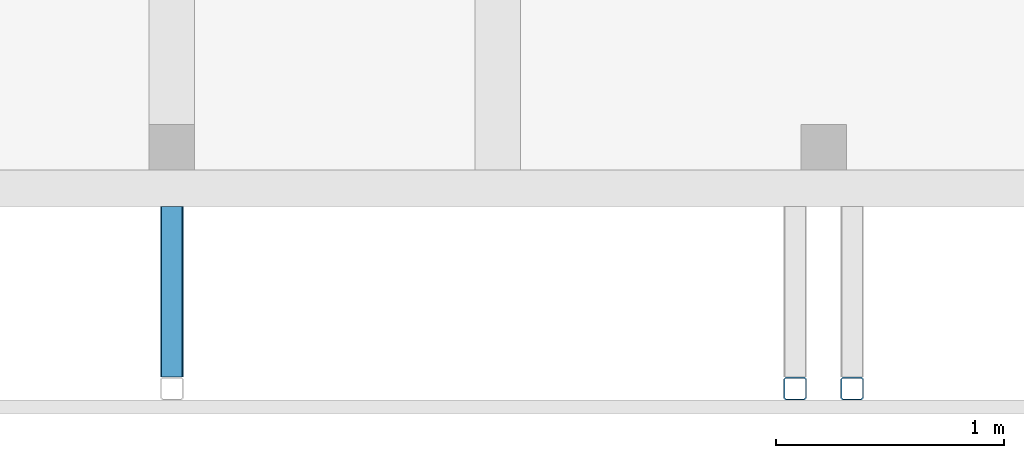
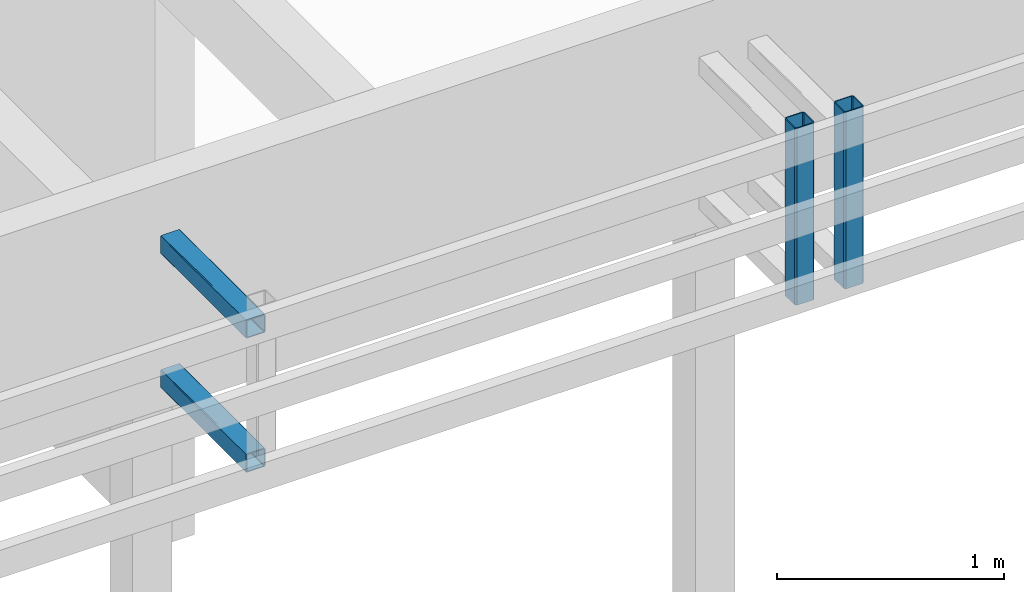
# One storey, part 26 of 44: 4 members.
"""IFC4 building model written with IfcOpenShell, lengths in metres."""

from ifc_helpers import new_model, entity, si_unit, converted_unit, derived_unit, frame, origin, place, context, subcontext, project, spatial, faceted_brep, material, element, save


model = new_model("IFC4")

# Units and contexts
model_context = context("Model", 3, precision=1e-05, world=origin())
plan_context = context("Plan", 2, precision=1e-05, world=origin())
body_context = subcontext(model_context, "Body", "Model", "MODEL_VIEW")
ifc_project = project(units=[si_unit("LENGTHUNIT", "METRE"), si_unit("AREAUNIT", "SQUARE_METRE"), si_unit("VOLUMEUNIT", "CUBIC_METRE"), si_unit("MASSUNIT", "GRAM", prefix="KILO"), converted_unit("PLANEANGLEUNIT", "DEGREE", entity("IfcPlaneAngleMeasure", 0.0174532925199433), si_unit("PLANEANGLEUNIT", "RADIAN"), dimensions=[0, 0, 0, 0, 0, 0, 0]), derived_unit("THERMALTRANSMITTANCEUNIT", [(si_unit("POWERUNIT", "WATT"), 1), (si_unit("THERMODYNAMICTEMPERATUREUNIT", "KELVIN"), -1), (si_unit("LENGTHUNIT", "METRE"), -2)]), derived_unit("VOLUMETRICFLOWRATEUNIT", [(si_unit("LENGTHUNIT", "METRE"), 3), (converted_unit("TIMEUNIT", "hour", entity("IfcTimeMeasure", 3600.0), si_unit("TIMEUNIT", "SECOND"), dimensions=[0, 0, 1, 0, 0, 0, 0]), -1), (si_unit("LENGTHUNIT", "METRE"), -1)])], contexts=[model_context, plan_context])

# Site, building, storey
site_placement = place(None, origin())
site = spatial("IfcSite", under=ifc_project, at=site_placement, Name="Site", CompositionType="ELEMENT")
building_placement = place(site_placement, origin())
building = spatial("IfcBuilding", under=site, at=building_placement, Name="Admin", CompositionType="ELEMENT")
storey_placement = place(building_placement, frame((0.0, 0.0, 3.25)))
storey = spatial("IfcBuildingStorey", under=building, at=storey_placement, Name="01-Etage1", CompositionType="ELEMENT", Elevation=3.25)

# Members
ifc_material_1 = material(Name="S235")
member_1_placement = place(storey_placement, frame((52.3748010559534, 11.0194493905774, 2.82)))
element("IfcMember", 1, at=member_1_placement, inside=storey, material=ifc_material_1, Name="Bandeau R+1", context=body_context, shape_type="Brep", body=[
    faceted_brep([(0.01, 0.095, 0.0), (0.01, 0.095, 0.95), (0.09, 0.095, 0.95), (0.09, 0.095, 0.0), (0.005, 0.09, 0.0), (0.005, 0.09, 0.95), (0.005, 0.01, 0.0), (0.005, 0.01, 0.95), (0.01, 0.005, 0.0), (0.01, 0.005, 0.95), (0.09, 0.005, 0.0), (0.09, 0.005, 0.95), (0.095, 0.01, 0.0), (0.095, 0.01, 0.95), (0.095, 0.09, 0.0), (0.095, 0.09, 0.95), (0.1, 0.0925, 0.0), (0.1, 0.0925, 0.95), (0.0925, 0.1, 0.95), (0.0925, 0.1, 0.0), (0.1, 0.0075, 0.0), (0.1, 0.0075, 0.95), (0.0925, 0.0, 0.0), (0.0925, 0.0, 0.95), (0.0075, 0.0, 0.0), (0.0075, 0.0, 0.95), (0.0, 0.0075, 0.0), (0.0, 0.0075, 0.95), (0.0, 0.0925, 0.0), (0.0, 0.0925, 0.95), (0.0075, 0.1, 0.0), (0.0075, 0.1, 0.95)], [[[0, 1, 2, 3]], [[4, 5, 1, 0]], [[6, 7, 5, 4]], [[8, 9, 7, 6]], [[10, 11, 9, 8]], [[12, 13, 11, 10]], [[14, 15, 13, 12]], [[3, 2, 15, 14]], [[16, 17, 18, 19]], [[20, 21, 17, 16]], [[22, 23, 21, 20]], [[24, 25, 23, 22]], [[26, 27, 25, 24]], [[28, 29, 27, 26]], [[30, 31, 29, 28]], [[19, 18, 31, 30]], [[18, 17, 21, 23, 25, 27, 29, 31], [2, 1, 5, 7, 9, 11, 13, 15]], [[19, 30, 28, 26, 24, 22, 20, 16], [3, 14, 12, 10, 8, 6, 4, 0]]], orient=[[False], [False], [False], [False], [False], [False], [False], [False], [False], [False], [False], [False], [False], [False], [False], [False], [False, False], [False, False]]),
])
ifc_material_2 = material(Name="S235")
member_2_placement = place(storey_placement, frame((52.6248010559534, 11.0194493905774, 2.82)))
element("IfcMember", 2, at=member_2_placement, inside=storey, material=ifc_material_2, Name="Bandeau R+1", context=body_context, shape_type="Brep", body=[
    faceted_brep([(0.01, 0.095, 0.0), (0.01, 0.095, 0.95), (0.09, 0.095, 0.95), (0.09, 0.095, 0.0), (0.005, 0.09, 0.0), (0.005, 0.09, 0.95), (0.005, 0.01, 0.0), (0.005, 0.01, 0.95), (0.01, 0.005, 0.0), (0.01, 0.005, 0.95), (0.09, 0.005, 0.0), (0.09, 0.005, 0.95), (0.095, 0.01, 0.0), (0.095, 0.01, 0.95), (0.095, 0.09, 0.0), (0.095, 0.09, 0.95), (0.1, 0.0925, 0.0), (0.1, 0.0925, 0.95), (0.0925, 0.1, 0.95), (0.0925, 0.1, 0.0), (0.1, 0.0075, 0.0), (0.1, 0.0075, 0.95), (0.0925, 0.0, 0.0), (0.0925, 0.0, 0.95), (0.0075, 0.0, 0.0), (0.0075, 0.0, 0.95), (0.0, 0.0075, 0.0), (0.0, 0.0075, 0.95), (0.0, 0.0925, 0.0), (0.0, 0.0925, 0.95), (0.0075, 0.1, 0.0), (0.0075, 0.1, 0.95)], [[[0, 1, 2, 3]], [[4, 5, 1, 0]], [[6, 7, 5, 4]], [[8, 9, 7, 6]], [[10, 11, 9, 8]], [[12, 13, 11, 10]], [[14, 15, 13, 12]], [[3, 2, 15, 14]], [[16, 17, 18, 19]], [[20, 21, 17, 16]], [[22, 23, 21, 20]], [[24, 25, 23, 22]], [[26, 27, 25, 24]], [[28, 29, 27, 26]], [[30, 31, 29, 28]], [[19, 18, 31, 30]], [[18, 17, 21, 23, 25, 27, 29, 31], [2, 1, 5, 7, 9, 11, 13, 15]], [[19, 30, 28, 26, 24, 22, 20, 16], [3, 14, 12, 10, 8, 6, 4, 0]]], orient=[[False], [False], [False], [False], [False], [False], [False], [False], [False], [False], [False], [False], [False], [False], [False], [False], [False, False], [False, False]]),
])
ifc_material_3 = material(Name="S235")
member_3_placement = place(storey_placement, frame((49.6398010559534, 11.1194493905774, 3.54)))
element("IfcMember", 3, at=member_3_placement, inside=storey, material=ifc_material_3, Name="Bandeau R+1", context=body_context, shape_type="Brep", body=[
    faceted_brep([(0.095, 0.0, 0.09), (0.095, 0.0, 0.01), (0.0950000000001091, 0.749999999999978, 0.01), (0.0950000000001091, 0.749999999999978, 0.09), (0.0949240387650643, 0.0, 0.0908682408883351), (0.0949240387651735, 0.749999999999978, 0.0908682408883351), (0.0946984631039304, 0.0, 0.0917101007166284), (0.0946984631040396, 0.749999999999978, 0.0917101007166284), (0.0943301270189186, 0.0, 0.0925), (0.0943301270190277, 0.749999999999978, 0.0925), (0.093830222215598, 0.0, 0.0932139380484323), (0.0938302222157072, 0.749999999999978, 0.0932139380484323), (0.0932139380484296, 1.81898940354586e-15, 0.0938302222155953), (0.0932139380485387, 0.74999999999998, 0.0938302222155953), (0.0925, 1.81898940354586e-15, 0.0943301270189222), (0.0925000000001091, 0.74999999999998, 0.0943301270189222), (0.0917101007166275, 1.81898940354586e-15, 0.0946984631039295), (0.0917101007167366, 0.74999999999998, 0.0946984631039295), (0.0908682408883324, 1.81898940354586e-15, 0.0949240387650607), (0.0908682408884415, 0.74999999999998, 0.0949240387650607), (0.09, 1.81898940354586e-15, 0.095), (0.0900000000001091, 0.74999999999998, 0.095), (0.01, 1.2732925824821e-14, 0.095), (0.0100000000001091, 0.749999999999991, 0.095), (0.00913175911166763, 1.2732925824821e-14, 0.0949240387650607), (0.00913175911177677, 0.749999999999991, 0.0949240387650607), (0.00828989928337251, 1.2732925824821e-14, 0.0946984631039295), (0.00828989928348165, 0.749999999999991, 0.0946984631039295), (0.0075, 1.2732925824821e-14, 0.0943301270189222), (0.00750000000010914, 0.749999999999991, 0.0943301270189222), (0.00678606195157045, 1.2732925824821e-14, 0.0938302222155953), (0.00678606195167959, 0.749999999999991, 0.0938302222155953), (0.00616977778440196, 1.45519152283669e-14, 0.0932139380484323), (0.0061697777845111, 0.749999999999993, 0.0932139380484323), (0.00566987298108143, 1.45519152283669e-14, 0.0925), (0.00566987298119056, 0.749999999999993, 0.0925), (0.00530153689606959, 1.45519152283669e-14, 0.0917101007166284), (0.00530153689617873, 0.749999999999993, 0.0917101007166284), (0.00507596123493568, 1.45519152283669e-14, 0.0908682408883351), (0.00507596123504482, 0.749999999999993, 0.0908682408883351), (0.005, 1.45519152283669e-14, 0.09), (0.00500000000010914, 0.749999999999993, 0.09), (0.005, 1.45519152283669e-14, 0.01), (0.00500000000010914, 0.749999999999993, 0.01), (0.00507596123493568, 1.45519152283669e-14, 0.00913175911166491), (0.00507596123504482, 0.749999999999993, 0.00913175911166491), (0.00530153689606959, 1.45519152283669e-14, 0.0082898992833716), (0.00530153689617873, 0.749999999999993, 0.0082898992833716), (0.00566987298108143, 1.45519152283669e-14, 0.0075), (0.00566987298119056, 0.749999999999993, 0.0075), (0.00616977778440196, 1.45519152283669e-14, 0.00678606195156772), (0.0061697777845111, 0.749999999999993, 0.00678606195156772), (0.00678606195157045, 1.2732925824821e-14, 0.00616977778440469), (0.00678606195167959, 0.749999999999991, 0.00616977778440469), (0.0075, 1.2732925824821e-14, 0.00566987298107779), (0.00750000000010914, 0.749999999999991, 0.00566987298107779), (0.00828989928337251, 1.2732925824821e-14, 0.0053015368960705), (0.00828989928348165, 0.749999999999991, 0.0053015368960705), (0.00913175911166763, 1.2732925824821e-14, 0.00507596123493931), (0.00913175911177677, 0.749999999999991, 0.00507596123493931), (0.01, 1.2732925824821e-14, 0.005), (0.0100000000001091, 0.749999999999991, 0.005), (0.09, 1.81898940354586e-15, 0.005), (0.0900000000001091, 0.74999999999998, 0.005), (0.0908682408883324, 1.81898940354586e-15, 0.00507596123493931), (0.0908682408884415, 0.74999999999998, 0.00507596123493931), (0.0917101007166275, 1.81898940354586e-15, 0.0053015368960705), (0.0917101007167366, 0.74999999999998, 0.0053015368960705), (0.0925, 1.81898940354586e-15, 0.00566987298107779), (0.0925000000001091, 0.74999999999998, 0.00566987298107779), (0.0932139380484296, 1.81898940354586e-15, 0.00616977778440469), (0.0932139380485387, 0.74999999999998, 0.00616977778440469), (0.093830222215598, 0.0, 0.00678606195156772), (0.0938302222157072, 0.749999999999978, 0.00678606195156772), (0.0943301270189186, 0.0, 0.0075), (0.0943301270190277, 0.749999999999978, 0.0075), (0.0946984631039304, 0.0, 0.0082898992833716), (0.0946984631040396, 0.749999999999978, 0.0082898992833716), (0.0949240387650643, 0.0, 0.00913175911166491), (0.0949240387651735, 0.749999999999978, 0.00913175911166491), (0.0075, 1.2732925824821e-14, 0.1), (0.00619763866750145, 1.45519152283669e-14, 0.0998860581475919), (0.00619763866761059, 0.749999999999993, 0.0998860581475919), (0.00750000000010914, 0.749999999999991, 0.1), (0.0925, 1.81898940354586e-15, 0.1), (0.0925000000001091, 0.74999999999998, 0.1), (0.0938023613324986, 0.0, 0.0998860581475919), (0.0938023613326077, 0.749999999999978, 0.0998860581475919), (0.0950651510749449, 0.0, 0.0995476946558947), (0.095065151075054, 0.749999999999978, 0.0995476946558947), (0.09625, 0.0, 0.0989951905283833), (0.0962500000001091, 0.749999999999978, 0.0989951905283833), (0.0973209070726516, 0.0, 0.0982453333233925), (0.0973209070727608, 0.749999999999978, 0.0982453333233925), (0.0982453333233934, 0.0, 0.0973209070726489), (0.0982453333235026, 0.749999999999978, 0.0973209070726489), (0.0989951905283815, 0.0, 0.09625), (0.0989951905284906, 0.749999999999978, 0.09625), (0.099547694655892, 0.0, 0.0950651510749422), (0.0995476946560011, 0.749999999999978, 0.0950651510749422), (0.0998860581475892, 0.0, 0.0938023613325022), (0.0998860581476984, 0.749999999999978, 0.0938023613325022), (0.1, 0.0, 0.0925), (0.100000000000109, 0.749999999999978, 0.0925), (0.0998860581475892, 0.0, 0.00619763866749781), (0.1, 0.0, 0.0075), (0.100000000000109, 0.749999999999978, 0.0075), (0.0998860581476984, 0.749999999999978, 0.00619763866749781), (0.099547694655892, 0.0, 0.00493484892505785), (0.0995476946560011, 0.749999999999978, 0.00493484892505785), (0.0989951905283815, 0.0, 0.00375), (0.0989951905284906, 0.749999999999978, 0.00375), (0.0982453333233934, 0.0, 0.00267909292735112), (0.0982453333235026, 0.749999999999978, 0.00267909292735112), (0.0973209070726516, 0.0, 0.00175466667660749), (0.0973209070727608, 0.749999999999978, 0.00175466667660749), (0.09625, 0.0, 0.00100480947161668), (0.0962500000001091, 0.749999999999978, 0.00100480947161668), (0.0950651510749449, 0.0, 0.000452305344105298), (0.095065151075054, 0.749999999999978, 0.000452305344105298), (0.0938023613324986, 0.0, 0.000113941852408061), (0.0938023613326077, 0.749999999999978, 0.000113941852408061), (0.0925, 1.81898940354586e-15, 0.0), (0.0925000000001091, 0.74999999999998, 0.0), (0.0075, 1.2732925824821e-14, 0.0), (0.00750000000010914, 0.749999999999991, 0.0), (0.00619763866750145, 1.45519152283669e-14, 0.000113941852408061), (0.00619763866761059, 0.749999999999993, 0.000113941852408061), (0.00493484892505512, 1.45519152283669e-14, 0.000452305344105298), (0.00493484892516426, 0.749999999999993, 0.000452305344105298), (0.00375, 1.45519152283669e-14, 0.00100480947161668), (0.00375000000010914, 0.749999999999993, 0.00100480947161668), (0.00267909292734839, 1.45519152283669e-14, 0.00175466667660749), (0.00267909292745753, 0.749999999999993, 0.00175466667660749), (0.00175466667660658, 1.45519152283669e-14, 0.00267909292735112), (0.00175466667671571, 0.749999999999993, 0.00267909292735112), (0.0010048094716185, 1.45519152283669e-14, 0.00375), (0.00100480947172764, 0.749999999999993, 0.00375), (0.000452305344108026, 1.45519152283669e-14, 0.00493484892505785), (0.000452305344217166, 0.749999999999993, 0.00493484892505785), (0.00011394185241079, 1.45519152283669e-14, 0.00619763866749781), (0.000113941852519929, 0.749999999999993, 0.00619763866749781), (0.0, 0.0, 0.0075), (1.09139364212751e-13, 0.749999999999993, 0.0075), (0.00011394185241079, 1.45519152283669e-14, 0.0938023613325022), (0.0, -1.81898940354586e-15, 0.0925), (1.09139364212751e-13, 0.749999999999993, 0.0925), (0.000113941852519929, 0.749999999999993, 0.0938023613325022), (0.000452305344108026, 1.45519152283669e-14, 0.0950651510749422), (0.000452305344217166, 0.749999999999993, 0.0950651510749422), (0.0010048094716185, 1.45519152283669e-14, 0.09625), (0.00100480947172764, 0.749999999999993, 0.09625), (0.00175466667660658, 1.45519152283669e-14, 0.0973209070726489), (0.00175466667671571, 0.749999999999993, 0.0973209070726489), (0.00267909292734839, 1.45519152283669e-14, 0.0982453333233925), (0.00267909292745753, 0.749999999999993, 0.0982453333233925), (0.00375, 1.45519152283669e-14, 0.0989951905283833), (0.00375000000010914, 0.749999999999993, 0.0989951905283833), (0.00493484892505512, 1.45519152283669e-14, 0.0995476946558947), (0.00493484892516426, 0.749999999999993, 0.0995476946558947)], [[[0, 1, 2, 3]], [[4, 0, 3, 5]], [[6, 4, 5, 7]], [[8, 6, 7, 9]], [[10, 8, 9, 11]], [[12, 10, 11, 13]], [[14, 12, 13, 15]], [[16, 14, 15, 17]], [[18, 16, 17, 19]], [[20, 18, 19, 21]], [[22, 20, 21, 23]], [[24, 22, 23, 25]], [[26, 24, 25, 27]], [[28, 26, 27, 29]], [[30, 28, 29, 31]], [[32, 30, 31, 33]], [[34, 32, 33, 35]], [[36, 34, 35, 37]], [[38, 36, 37, 39]], [[40, 38, 39, 41]], [[42, 40, 41, 43]], [[44, 42, 43, 45]], [[46, 44, 45, 47]], [[48, 46, 47, 49]], [[50, 48, 49, 51]], [[52, 50, 51, 53]], [[54, 52, 53, 55]], [[56, 54, 55, 57]], [[58, 56, 57, 59]], [[60, 58, 59, 61]], [[62, 60, 61, 63]], [[64, 62, 63, 65]], [[66, 64, 65, 67]], [[68, 66, 67, 69]], [[70, 68, 69, 71]], [[72, 70, 71, 73]], [[74, 72, 73, 75]], [[76, 74, 75, 77]], [[78, 76, 77, 79]], [[1, 78, 79, 2]], [[80, 81, 82, 83]], [[84, 80, 83, 85]], [[86, 84, 85, 87]], [[88, 86, 87, 89]], [[90, 88, 89, 91]], [[92, 90, 91, 93]], [[94, 92, 93, 95]], [[96, 94, 95, 97]], [[98, 96, 97, 99]], [[100, 98, 99, 101]], [[102, 100, 101, 103]], [[104, 105, 106, 107]], [[108, 104, 107, 109]], [[110, 108, 109, 111]], [[112, 110, 111, 113]], [[114, 112, 113, 115]], [[116, 114, 115, 117]], [[118, 116, 117, 119]], [[120, 118, 119, 121]], [[122, 120, 121, 123]], [[124, 122, 123, 125]], [[126, 124, 125, 127]], [[128, 126, 127, 129]], [[130, 128, 129, 131]], [[132, 130, 131, 133]], [[134, 132, 133, 135]], [[136, 134, 135, 137]], [[138, 136, 137, 139]], [[140, 138, 139, 141]], [[142, 140, 141, 143]], [[144, 145, 146, 147]], [[148, 144, 147, 149]], [[150, 148, 149, 151]], [[152, 150, 151, 153]], [[154, 152, 153, 155]], [[156, 154, 155, 157]], [[158, 156, 157, 159]], [[81, 158, 159, 82]], [[146, 143, 141, 139, 137, 135, 133, 131, 129, 127, 125, 123, 121, 119, 117, 115, 113, 111, 109, 107, 106, 103, 101, 99, 97, 95, 93, 91, 89, 87, 85, 83, 82, 159, 157, 155, 153, 151, 149, 147], [2, 79, 77, 75, 73, 71, 69, 67, 65, 63, 61, 59, 57, 55, 53, 51, 49, 47, 45, 43, 41, 39, 37, 35, 33, 31, 29, 27, 25, 23, 21, 19, 17, 15, 13, 11, 9, 7, 5, 3]], [[103, 106, 105, 102]], [[102, 105, 104, 108, 110, 112, 114, 116, 118, 120, 122, 124, 126, 128, 130, 132, 134, 136, 138, 140, 142, 145, 144, 148, 150, 152, 154, 156, 158, 81, 80, 84, 86, 88, 90, 92, 94, 96, 98, 100], [1, 0, 4, 6, 8, 10, 12, 14, 16, 18, 20, 22, 24, 26, 28, 30, 32, 34, 36, 38, 40, 42, 44, 46, 48, 50, 52, 54, 56, 58, 60, 62, 64, 66, 68, 70, 72, 74, 76, 78]], [[145, 142, 143, 146]]], orient=[[False], [False], [False], [False], [False], [False], [False], [False], [False], [False], [False], [False], [False], [False], [False], [False], [False], [False], [False], [False], [False], [False], [False], [False], [False], [False], [False], [False], [False], [False], [False], [False], [False], [False], [False], [False], [False], [False], [False], [False], [False], [False], [False], [False], [False], [False], [False], [False], [False], [False], [False], [False], [False], [False], [False], [False], [False], [False], [False], [False], [False], [False], [False], [False], [False], [False], [False], [False], [False], [False], [False], [False], [False], [False], [False], [False], [False], [False], [False, False], [False], [False, False], [False]]),
])
ifc_material_4 = material(Name="S235")
member_4_placement = place(storey_placement, frame((49.6398010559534, 11.1194493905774, 2.82)))
element("IfcMember", 4, at=member_4_placement, inside=storey, material=ifc_material_4, Name="Bandeau R+1", context=body_context, shape_type="Brep", body=[
    faceted_brep([(0.095, 0.0, 0.09), (0.095, 0.0, 0.01), (0.0950000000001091, 0.749999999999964, 0.01), (0.0950000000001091, 0.749999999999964, 0.09), (0.0949240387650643, 0.0, 0.0908682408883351), (0.0949240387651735, 0.749999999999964, 0.0908682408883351), (0.0946984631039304, 0.0, 0.0917101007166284), (0.0946984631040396, 0.749999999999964, 0.0917101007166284), (0.0943301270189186, 0.0, 0.0925), (0.0943301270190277, 0.749999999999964, 0.0925), (0.093830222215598, 0.0, 0.0932139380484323), (0.0938302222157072, 0.749999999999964, 0.0932139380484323), (0.0932139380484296, 1.81898940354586e-15, 0.0938302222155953), (0.0932139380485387, 0.749999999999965, 0.0938302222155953), (0.0925, 1.81898940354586e-15, 0.0943301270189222), (0.0925000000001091, 0.749999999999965, 0.0943301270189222), (0.0917101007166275, 1.81898940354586e-15, 0.0946984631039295), (0.0917101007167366, 0.749999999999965, 0.0946984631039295), (0.0908682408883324, 1.81898940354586e-15, 0.0949240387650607), (0.0908682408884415, 0.749999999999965, 0.0949240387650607), (0.09, 1.81898940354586e-15, 0.095), (0.0900000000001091, 0.749999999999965, 0.095), (0.01, 1.2732925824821e-14, 0.095), (0.0100000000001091, 0.749999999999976, 0.095), (0.00913175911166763, 1.2732925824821e-14, 0.0949240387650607), (0.00913175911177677, 0.749999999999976, 0.0949240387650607), (0.00828989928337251, 1.2732925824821e-14, 0.0946984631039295), (0.00828989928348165, 0.749999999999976, 0.0946984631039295), (0.0075, 1.2732925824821e-14, 0.0943301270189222), (0.00750000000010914, 0.749999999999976, 0.0943301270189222), (0.00678606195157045, 1.2732925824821e-14, 0.0938302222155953), (0.00678606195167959, 0.749999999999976, 0.0938302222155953), (0.00616977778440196, 1.45519152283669e-14, 0.0932139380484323), (0.0061697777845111, 0.749999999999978, 0.0932139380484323), (0.00566987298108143, 1.45519152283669e-14, 0.0925), (0.00566987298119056, 0.749999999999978, 0.0925), (0.00530153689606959, 1.45519152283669e-14, 0.0917101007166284), (0.00530153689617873, 0.749999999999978, 0.0917101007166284), (0.00507596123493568, 1.45519152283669e-14, 0.0908682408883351), (0.00507596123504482, 0.749999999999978, 0.0908682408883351), (0.005, 1.45519152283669e-14, 0.09), (0.00500000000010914, 0.749999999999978, 0.09), (0.005, 1.45519152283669e-14, 0.01), (0.00500000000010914, 0.749999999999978, 0.01), (0.00507596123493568, 1.45519152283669e-14, 0.00913175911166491), (0.00507596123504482, 0.749999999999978, 0.00913175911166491), (0.00530153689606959, 1.45519152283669e-14, 0.0082898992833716), (0.00530153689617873, 0.749999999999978, 0.0082898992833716), (0.00566987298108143, 1.45519152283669e-14, 0.0075), (0.00566987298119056, 0.749999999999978, 0.0075), (0.00616977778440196, 1.45519152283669e-14, 0.00678606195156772), (0.0061697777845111, 0.749999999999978, 0.00678606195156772), (0.00678606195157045, 1.2732925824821e-14, 0.00616977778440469), (0.00678606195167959, 0.749999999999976, 0.00616977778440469), (0.0075, 1.2732925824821e-14, 0.00566987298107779), (0.00750000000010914, 0.749999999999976, 0.00566987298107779), (0.00828989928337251, 1.2732925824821e-14, 0.0053015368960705), (0.00828989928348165, 0.749999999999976, 0.0053015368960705), (0.00913175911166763, 1.2732925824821e-14, 0.00507596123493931), (0.00913175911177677, 0.749999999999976, 0.00507596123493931), (0.01, 1.2732925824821e-14, 0.005), (0.0100000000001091, 0.749999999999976, 0.005), (0.09, 1.81898940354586e-15, 0.005), (0.0900000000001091, 0.749999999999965, 0.005), (0.0908682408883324, 1.81898940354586e-15, 0.00507596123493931), (0.0908682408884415, 0.749999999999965, 0.00507596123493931), (0.0917101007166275, 1.81898940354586e-15, 0.0053015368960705), (0.0917101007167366, 0.749999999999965, 0.0053015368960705), (0.0925, 1.81898940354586e-15, 0.00566987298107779), (0.0925000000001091, 0.749999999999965, 0.00566987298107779), (0.0932139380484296, 1.81898940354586e-15, 0.00616977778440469), (0.0932139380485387, 0.749999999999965, 0.00616977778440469), (0.093830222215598, 0.0, 0.00678606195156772), (0.0938302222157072, 0.749999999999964, 0.00678606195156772), (0.0943301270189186, 0.0, 0.0075), (0.0943301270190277, 0.749999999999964, 0.0075), (0.0946984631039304, 0.0, 0.0082898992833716), (0.0946984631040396, 0.749999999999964, 0.0082898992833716), (0.0949240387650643, 0.0, 0.00913175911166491), (0.0949240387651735, 0.749999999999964, 0.00913175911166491), (0.0075, 1.2732925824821e-14, 0.1), (0.00619763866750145, 1.45519152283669e-14, 0.0998860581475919), (0.00619763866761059, 0.749999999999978, 0.0998860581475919), (0.00750000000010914, 0.749999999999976, 0.1), (0.0925, 1.81898940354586e-15, 0.1), (0.0925000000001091, 0.749999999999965, 0.1), (0.0938023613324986, 0.0, 0.0998860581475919), (0.0938023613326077, 0.749999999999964, 0.0998860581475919), (0.0950651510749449, 0.0, 0.0995476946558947), (0.095065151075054, 0.749999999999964, 0.0995476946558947), (0.09625, 0.0, 0.0989951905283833), (0.0962500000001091, 0.749999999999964, 0.0989951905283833), (0.0973209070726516, 0.0, 0.0982453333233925), (0.0973209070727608, 0.749999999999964, 0.0982453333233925), (0.0982453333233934, 0.0, 0.0973209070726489), (0.0982453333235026, 0.749999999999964, 0.0973209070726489), (0.0989951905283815, 0.0, 0.09625), (0.0989951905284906, 0.749999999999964, 0.09625), (0.099547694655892, 0.0, 0.0950651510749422), (0.0995476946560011, 0.749999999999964, 0.0950651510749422), (0.0998860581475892, 0.0, 0.0938023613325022), (0.0998860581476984, 0.749999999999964, 0.0938023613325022), (0.1, 0.0, 0.0925), (0.100000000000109, 0.749999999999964, 0.0925), (0.0998860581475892, 0.0, 0.00619763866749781), (0.1, 0.0, 0.0075), (0.100000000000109, 0.749999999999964, 0.0075), (0.0998860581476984, 0.749999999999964, 0.00619763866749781), (0.099547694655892, 0.0, 0.00493484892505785), (0.0995476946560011, 0.749999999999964, 0.00493484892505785), (0.0989951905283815, 0.0, 0.00375), (0.0989951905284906, 0.749999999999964, 0.00375), (0.0982453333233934, 0.0, 0.00267909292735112), (0.0982453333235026, 0.749999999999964, 0.00267909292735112), (0.0973209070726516, 0.0, 0.00175466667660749), (0.0973209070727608, 0.749999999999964, 0.00175466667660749), (0.09625, 0.0, 0.00100480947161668), (0.0962500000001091, 0.749999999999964, 0.00100480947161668), (0.0950651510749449, 0.0, 0.000452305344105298), (0.095065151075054, 0.749999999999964, 0.000452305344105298), (0.0938023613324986, 0.0, 0.000113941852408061), (0.0938023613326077, 0.749999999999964, 0.000113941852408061), (0.0925, 1.81898940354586e-15, 0.0), (0.0925000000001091, 0.749999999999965, 0.0), (0.0075, 1.2732925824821e-14, 0.0), (0.00750000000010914, 0.749999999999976, 0.0), (0.00619763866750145, 1.45519152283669e-14, 0.000113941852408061), (0.00619763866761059, 0.749999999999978, 0.000113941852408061), (0.00493484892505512, 1.45519152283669e-14, 0.000452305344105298), (0.00493484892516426, 0.749999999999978, 0.000452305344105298), (0.00375, 1.45519152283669e-14, 0.00100480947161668), (0.00375000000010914, 0.749999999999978, 0.00100480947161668), (0.00267909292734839, 1.45519152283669e-14, 0.00175466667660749), (0.00267909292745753, 0.749999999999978, 0.00175466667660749), (0.00175466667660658, 1.45519152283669e-14, 0.00267909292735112), (0.00175466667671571, 0.749999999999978, 0.00267909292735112), (0.0010048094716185, 1.45519152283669e-14, 0.00375), (0.00100480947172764, 0.749999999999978, 0.00375), (0.000452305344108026, 1.45519152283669e-14, 0.00493484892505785), (0.000452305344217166, 0.749999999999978, 0.00493484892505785), (0.00011394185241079, 1.45519152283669e-14, 0.00619763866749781), (0.000113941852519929, 0.749999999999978, 0.00619763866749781), (0.0, 0.0, 0.0075), (1.09139364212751e-13, 0.749999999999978, 0.0075), (0.00011394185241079, 1.45519152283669e-14, 0.0938023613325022), (0.0, 0.0, 0.0925), (1.09139364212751e-13, 0.749999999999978, 0.0925), (0.000113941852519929, 0.749999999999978, 0.0938023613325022), (0.000452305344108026, 1.45519152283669e-14, 0.0950651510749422), (0.000452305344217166, 0.749999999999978, 0.0950651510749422), (0.0010048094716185, 1.45519152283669e-14, 0.09625), (0.00100480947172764, 0.749999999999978, 0.09625), (0.00175466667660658, 1.45519152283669e-14, 0.0973209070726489), (0.00175466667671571, 0.749999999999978, 0.0973209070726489), (0.00267909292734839, 1.45519152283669e-14, 0.0982453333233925), (0.00267909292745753, 0.749999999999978, 0.0982453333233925), (0.00375, 1.45519152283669e-14, 0.0989951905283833), (0.00375000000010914, 0.749999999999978, 0.0989951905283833), (0.00493484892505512, 1.45519152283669e-14, 0.0995476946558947), (0.00493484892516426, 0.749999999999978, 0.0995476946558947)], [[[0, 1, 2, 3]], [[4, 0, 3, 5]], [[6, 4, 5, 7]], [[8, 6, 7, 9]], [[10, 8, 9, 11]], [[12, 10, 11, 13]], [[14, 12, 13, 15]], [[16, 14, 15, 17]], [[18, 16, 17, 19]], [[20, 18, 19, 21]], [[22, 20, 21, 23]], [[24, 22, 23, 25]], [[26, 24, 25, 27]], [[28, 26, 27, 29]], [[30, 28, 29, 31]], [[32, 30, 31, 33]], [[34, 32, 33, 35]], [[36, 34, 35, 37]], [[38, 36, 37, 39]], [[40, 38, 39, 41]], [[42, 40, 41, 43]], [[44, 42, 43, 45]], [[46, 44, 45, 47]], [[48, 46, 47, 49]], [[50, 48, 49, 51]], [[52, 50, 51, 53]], [[54, 52, 53, 55]], [[56, 54, 55, 57]], [[58, 56, 57, 59]], [[60, 58, 59, 61]], [[62, 60, 61, 63]], [[64, 62, 63, 65]], [[66, 64, 65, 67]], [[68, 66, 67, 69]], [[70, 68, 69, 71]], [[72, 70, 71, 73]], [[74, 72, 73, 75]], [[76, 74, 75, 77]], [[78, 76, 77, 79]], [[1, 78, 79, 2]], [[80, 81, 82, 83]], [[84, 80, 83, 85]], [[86, 84, 85, 87]], [[88, 86, 87, 89]], [[90, 88, 89, 91]], [[92, 90, 91, 93]], [[94, 92, 93, 95]], [[96, 94, 95, 97]], [[98, 96, 97, 99]], [[100, 98, 99, 101]], [[102, 100, 101, 103]], [[104, 105, 106, 107]], [[108, 104, 107, 109]], [[110, 108, 109, 111]], [[112, 110, 111, 113]], [[114, 112, 113, 115]], [[116, 114, 115, 117]], [[118, 116, 117, 119]], [[120, 118, 119, 121]], [[122, 120, 121, 123]], [[124, 122, 123, 125]], [[126, 124, 125, 127]], [[128, 126, 127, 129]], [[130, 128, 129, 131]], [[132, 130, 131, 133]], [[134, 132, 133, 135]], [[136, 134, 135, 137]], [[138, 136, 137, 139]], [[140, 138, 139, 141]], [[142, 140, 141, 143]], [[144, 145, 146, 147]], [[148, 144, 147, 149]], [[150, 148, 149, 151]], [[152, 150, 151, 153]], [[154, 152, 153, 155]], [[156, 154, 155, 157]], [[158, 156, 157, 159]], [[81, 158, 159, 82]], [[146, 143, 141, 139, 137, 135, 133, 131, 129, 127, 125, 123, 121, 119, 117, 115, 113, 111, 109, 107, 106, 103, 101, 99, 97, 95, 93, 91, 89, 87, 85, 83, 82, 159, 157, 155, 153, 151, 149, 147], [2, 79, 77, 75, 73, 71, 69, 67, 65, 63, 61, 59, 57, 55, 53, 51, 49, 47, 45, 43, 41, 39, 37, 35, 33, 31, 29, 27, 25, 23, 21, 19, 17, 15, 13, 11, 9, 7, 5, 3]], [[103, 106, 105, 102]], [[102, 105, 104, 108, 110, 112, 114, 116, 118, 120, 122, 124, 126, 128, 130, 132, 134, 136, 138, 140, 142, 145, 144, 148, 150, 152, 154, 156, 158, 81, 80, 84, 86, 88, 90, 92, 94, 96, 98, 100], [1, 0, 4, 6, 8, 10, 12, 14, 16, 18, 20, 22, 24, 26, 28, 30, 32, 34, 36, 38, 40, 42, 44, 46, 48, 50, 52, 54, 56, 58, 60, 62, 64, 66, 68, 70, 72, 74, 76, 78]], [[145, 142, 143, 146]]], orient=[[False], [False], [False], [False], [False], [False], [False], [False], [False], [False], [False], [False], [False], [False], [False], [False], [False], [False], [False], [False], [False], [False], [False], [False], [False], [False], [False], [False], [False], [False], [False], [False], [False], [False], [False], [False], [False], [False], [False], [False], [False], [False], [False], [False], [False], [False], [False], [False], [False], [False], [False], [False], [False], [False], [False], [False], [False], [False], [False], [False], [False], [False], [False], [False], [False], [False], [False], [False], [False], [False], [False], [False], [False], [False], [False], [False], [False], [False], [False, False], [False], [False, False], [False]]),
])

save(model, "model.ifc")
